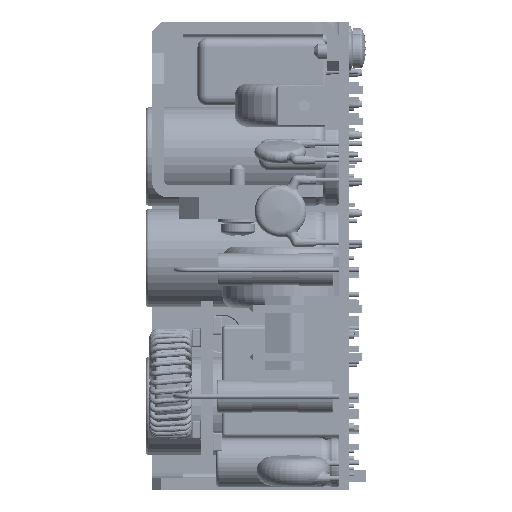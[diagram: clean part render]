
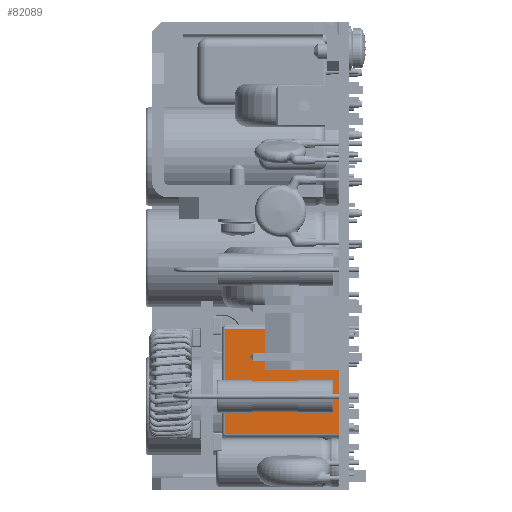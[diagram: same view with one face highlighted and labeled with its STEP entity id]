
A CAD part, left-side view. The second image highlights one B-rep face of the part: STEP entity #82089.
In plain terms, the highlighted planar face has unit normal (-1, 0, 0).
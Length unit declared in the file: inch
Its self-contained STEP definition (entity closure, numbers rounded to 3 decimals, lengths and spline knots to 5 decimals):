
#3934 = FACE_OUTER_BOUND ( 'NONE', #106010, .T. ) ;
#24698 = CARTESIAN_POINT ( 'NONE',  ( -0.21654, 0., -0.33465 ) ) ;
#27101 = VERTEX_POINT ( 'NONE', #56337 ) ;
#32254 = CARTESIAN_POINT ( 'NONE',  ( -0.21654, 0.74803, -0.35433 ) ) ;
#32794 = VECTOR ( 'NONE', #100572, 39.37008 ) ;
#34516 = CARTESIAN_POINT ( 'NONE',  ( -0.21654, 0.72835, -0.33465 ) ) ;
#35078 = ORIENTED_EDGE ( 'NONE', *, *, #67924, .T. ) ;
#43586 = DIRECTION ( 'NONE',  ( 0., 0., -1. ) ) ;
#47321 = CARTESIAN_POINT ( 'NONE',  ( -0.21654, 0.72835, -0.35433 ) ) ;
#56337 = CARTESIAN_POINT ( 'NONE',  ( -0.21654, 0.72835, 0.33465 ) ) ;
#60979 = CARTESIAN_POINT ( 'NONE',  ( -0.21654, 0., 0.33465 ) ) ;
#64772 = VERTEX_POINT ( 'NONE', #60979 ) ;
#66510 = ORIENTED_EDGE ( 'NONE', *, *, #93098, .T. ) ;
#67924 = EDGE_CURVE ( 'NONE', #27101, #131014, #134725, .T. ) ;
#74634 = CARTESIAN_POINT ( 'NONE',  ( -0.21654, 0.74803, 0.33465 ) ) ;
#76145 = PLANE ( 'NONE',  #103348 ) ;
#78071 = LINE ( 'NONE', #135223, #134434 ) ;
#82089 = ADVANCED_FACE ( 'NONE', ( #3934 ), #76145, .F. ) ;
#85909 = DIRECTION ( 'NONE',  ( 0., 1., 0. ) ) ;
#93098 = EDGE_CURVE ( 'NONE', #142858, #64772, #78071, .T. ) ;
#97690 = VECTOR ( 'NONE', #126154, 39.37008 ) ;
#100572 = DIRECTION ( 'NONE',  ( 0., -1., 0. ) ) ;
#100708 = ORIENTED_EDGE ( 'NONE', *, *, #127822, .T. ) ;
#101731 = DIRECTION ( 'NONE',  ( 0., 0., 1. ) ) ;
#103334 = ORIENTED_EDGE ( 'NONE', *, *, #137972, .T. ) ;
#103348 = AXIS2_PLACEMENT_3D ( 'NONE', #32254, #111084, #43586 ) ;
#106010 = EDGE_LOOP ( 'NONE', ( #66510, #103334, #35078, #100708 ) ) ;
#111084 = DIRECTION ( 'NONE',  ( 1., 0., 0. ) ) ;
#115354 = VECTOR ( 'NONE', #85909, 39.37008 ) ;
#126154 = DIRECTION ( 'NONE',  ( 0., 0., -1. ) ) ;
#126189 = LINE ( 'NONE', #145462, #32794 ) ;
#127822 = EDGE_CURVE ( 'NONE', #131014, #142858, #126189, .T. ) ;
#131014 = VERTEX_POINT ( 'NONE', #34516 ) ;
#134434 = VECTOR ( 'NONE', #101731, 39.37008 ) ;
#134725 = LINE ( 'NONE', #47321, #97690 ) ;
#135223 = CARTESIAN_POINT ( 'NONE',  ( -0.21654, 0., -0.35433 ) ) ;
#137972 = EDGE_CURVE ( 'NONE', #64772, #27101, #145388, .T. ) ;
#142858 = VERTEX_POINT ( 'NONE', #24698 ) ;
#145388 = LINE ( 'NONE', #74634, #115354 ) ;
#145462 = CARTESIAN_POINT ( 'NONE',  ( -0.21654, 0.74803, -0.33465 ) ) ;
